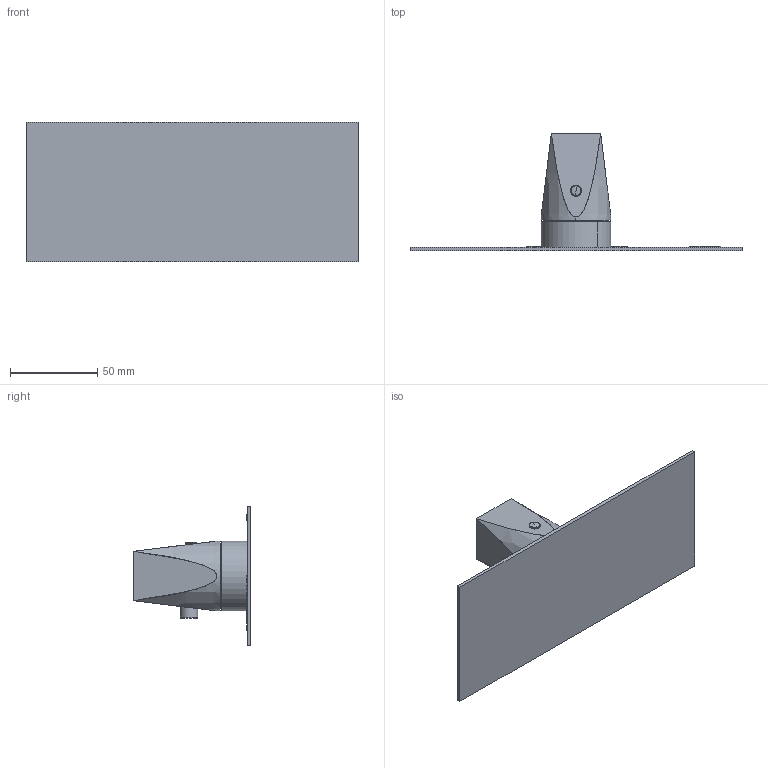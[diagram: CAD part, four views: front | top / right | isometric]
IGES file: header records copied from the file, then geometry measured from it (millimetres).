
Start section:  PTC IGES file: 49600.igs
Global section: file name: 49600.igs; native system: Creo Parametric by PTC Inc.; preprocessor: 2022014; author: carloff; organization: Unknown; date: 20230920.165646; units: millimetre
Bounding box: 190 x 67.4 x 80 mm (x, y, z)
Surface area: 39772.6 mm2 (no closed solid volume)
Topology: 0 solids, 0 shells, 527 faces, 2770 edges, 2768 vertices
Faces by surface type: bspline 338, extrusion 166, revolution 23
